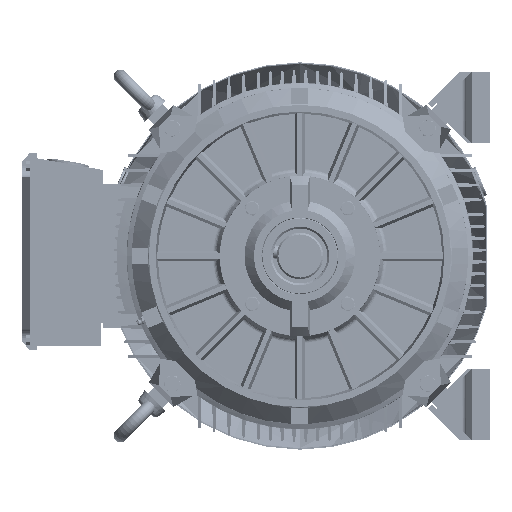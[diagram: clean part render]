
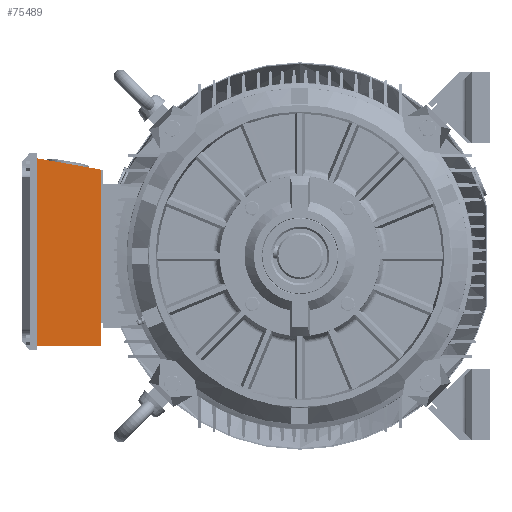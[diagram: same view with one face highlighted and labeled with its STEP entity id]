
A CAD part, left-side view. The second image highlights one B-rep face of the part: STEP entity #75489.
In plain terms, the highlighted planar face has unit normal (-1, 0, 0).
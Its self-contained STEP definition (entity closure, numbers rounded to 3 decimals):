
#7534 = ORIENTED_EDGE ( 'NONE', *, *, #221430, .T. ) ;
#8612 = DIRECTION ( 'NONE',  ( 0., 0., 1. ) ) ;
#9486 = EDGE_CURVE ( 'NONE', #301263, #235577, #119752, .T. ) ;
#24685 = CARTESIAN_POINT ( 'NONE',  ( -30.206, 215.768, 102.18 ) ) ;
#32039 = ORIENTED_EDGE ( 'NONE', *, *, #188738, .T. ) ;
#42768 = VERTEX_POINT ( 'NONE', #163270 ) ;
#45205 = CARTESIAN_POINT ( 'NONE',  ( -30.206, 215.768, -106.82 ) ) ;
#48178 = DIRECTION ( 'NONE',  ( 0., -1., 0. ) ) ;
#52396 = FACE_OUTER_BOUND ( 'NONE', #101838, .T. ) ;
#69776 = CARTESIAN_POINT ( 'NONE',  ( -30.206, 291.768, -106.82 ) ) ;
#73762 = CARTESIAN_POINT ( 'NONE',  ( -30.206, 291.768, -106.82 ) ) ;
#75489 = ADVANCED_FACE ( 'NONE', ( #52396 ), #96628, .F. ) ;
#76455 = LINE ( 'NONE', #24685, #79790 ) ;
#79790 = VECTOR ( 'NONE', #169504, 1000. ) ;
#84549 = ORIENTED_EDGE ( 'NONE', *, *, #9486, .T. ) ;
#92998 = VERTEX_POINT ( 'NONE', #197088 ) ;
#93305 = LINE ( 'NONE', #186336, #115327 ) ;
#96628 = PLANE ( 'NONE',  #244567 ) ;
#101838 = EDGE_LOOP ( 'NONE', ( #84549, #32039, #151902, #7534 ) ) ;
#115327 = VECTOR ( 'NONE', #279369, 1000. ) ;
#119752 = LINE ( 'NONE', #45205, #196212 ) ;
#140911 = DIRECTION ( 'NONE',  ( 1., 0., 0. ) ) ;
#147414 = LINE ( 'NONE', #246531, #175351 ) ;
#151902 = ORIENTED_EDGE ( 'NONE', *, *, #163498, .T. ) ;
#163270 = CARTESIAN_POINT ( 'NONE',  ( -30.206, 215.768, 102.18 ) ) ;
#163498 = EDGE_CURVE ( 'NONE', #42768, #92998, #76455, .T. ) ;
#169504 = DIRECTION ( 'NONE',  ( 0., 0.985, 0.174 ) ) ;
#175351 = VECTOR ( 'NONE', #8612, 1000. ) ;
#186336 = CARTESIAN_POINT ( 'NONE',  ( -30.206, 291.768, -106.82 ) ) ;
#188738 = EDGE_CURVE ( 'NONE', #235577, #42768, #147414, .T. ) ;
#195028 = CARTESIAN_POINT ( 'NONE',  ( -30.206, 215.768, -106.82 ) ) ;
#196212 = VECTOR ( 'NONE', #48178, 1000. ) ;
#197088 = CARTESIAN_POINT ( 'NONE',  ( -30.206, 291.768, 115.581 ) ) ;
#221430 = EDGE_CURVE ( 'NONE', #92998, #301263, #93305, .T. ) ;
#235470 = DIRECTION ( 'NONE',  ( 0., -1., 0. ) ) ;
#235577 = VERTEX_POINT ( 'NONE', #195028 ) ;
#244567 = AXIS2_PLACEMENT_3D ( 'NONE', #73762, #140911, #235470 ) ;
#246531 = CARTESIAN_POINT ( 'NONE',  ( -30.206, 215.768, -106.82 ) ) ;
#279369 = DIRECTION ( 'NONE',  ( 0., 0., -1. ) ) ;
#301263 = VERTEX_POINT ( 'NONE', #69776 ) ;
